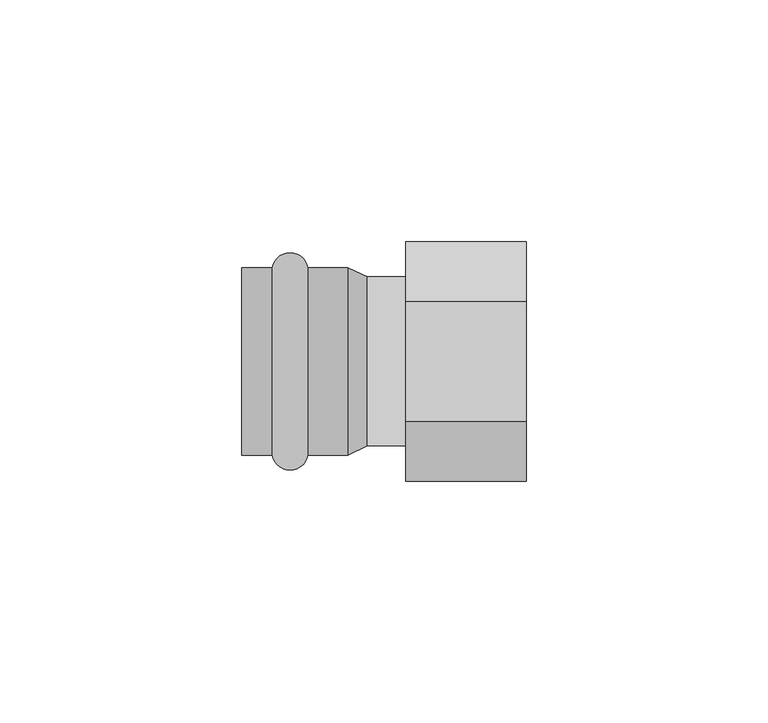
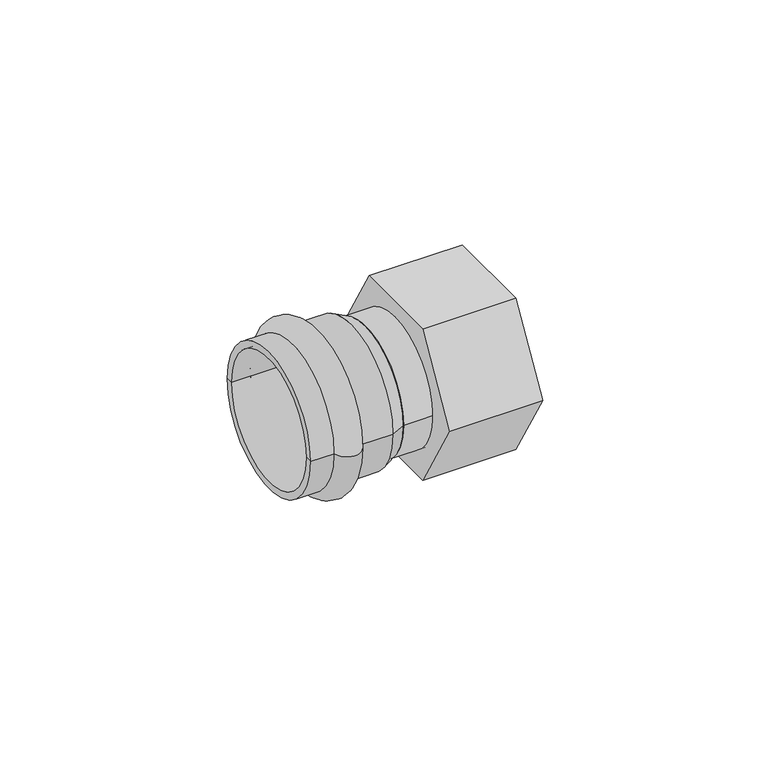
"""IFC4 building model written with IfcOpenShell, lengths in millimetres: pipe fitting geometry, VALTEC_VTi.908.I_Соединитель с накидной гайкой_Нержавеющая сталь : VTi.908.I."""

from ifc_helpers import new_model, si_unit, point, frame, origin, origin_2d, place, context, project, spatial, polyline, circle_curve, ellipse_curve, trimmed, segment, composite_curve, outline, extrude, source, transform, mapped, element, save
from ifc_brep_helpers import plane_surface, cylinder_surface, revolved_surface, advanced_brep


def pipe_fitting_dc9d7d62(model_context):
    return source(origin(), model_context, "Body", "SolidModel", [
        advanced_brep(
        [(-40.1432371, -19.4, 0.0), (-40.1432371, 19.4, 0.0), (-32.7567629, 19.4, 0.0), (-32.7567629, -19.4, 0.0), (-46.5, -19.4, 0.0), (-46.5, 19.4, 0.0), (-46.5, -17.5, 0.0), (-46.5, 17.5, 0.0), (-24.5, -17.5, 0.0), (-24.5, 17.5, 0.0), (-24.5, -19.4, 0.0), (-24.5, 19.4, 0.0)],
        [
            (0, 1, circle_curve(frame((-40.1432371, 0.0, 0.0), z_axis=(1.0, 0.0, 0.0), x_axis=(0.0, 1.0, 0.0)), 19.4)),
            (1, 2, circle_curve(frame((-36.45, 18.75, 0.0), z_axis=(0.0, 0.0, -1.0), x_axis=(1.0, 0.0, 0.0)), 3.75)),
            (2, 3, circle_curve(frame((-32.7567629, 0.0, 0.0), z_axis=(-1.0, 0.0, 0.0), x_axis=(0.0, 1.0, 0.0)), 19.4)),
            (3, 0, circle_curve(frame((-36.45, -18.75, 0.0), z_axis=(0.0, 0.0, -1.0), x_axis=(1.0, 0.0, 0.0)), 3.75)),
            (1, 0, circle_curve(frame((-40.1432371, 0.0, 0.0), z_axis=(1.0, 0.0, 0.0), x_axis=(0.0, 1.0, 0.0)), 19.4)),
            (3, 2, circle_curve(frame((-32.7567629, 0.0, 0.0), z_axis=(-1.0, 0.0, 0.0), x_axis=(0.0, 1.0, 0.0)), 19.4)),
            (4, 5, circle_curve(frame((-46.5, 0.0, 0.0), z_axis=(1.0, 0.0, 0.0), x_axis=(0.0, 1.0, 0.0)), 19.4)),
            (5, 1),
            (0, 4),
            (5, 4, circle_curve(frame((-46.5, 0.0, 0.0), z_axis=(1.0, 0.0, 0.0), x_axis=(0.0, 1.0, 0.0)), 19.4)),
            (6, 7, circle_curve(frame((-46.5, 0.0, 0.0), z_axis=(1.0, 0.0, 0.0), x_axis=(0.0, 1.0, 0.0)), 17.5)),
            (7, 5),
            (4, 6),
            (7, 6, circle_curve(frame((-46.5, 0.0, 0.0), z_axis=(1.0, 0.0, 0.0), x_axis=(0.0, 1.0, 0.0)), 17.5)),
            (8, 9, circle_curve(frame((-24.5, 0.0, 0.0), z_axis=(1.0, 0.0, 0.0), x_axis=(0.0, 1.0, 0.0)), 17.5)),
            (9, 7),
            (6, 8),
            (9, 8, circle_curve(frame((-24.5, 0.0, 0.0), z_axis=(1.0, 0.0, 0.0), x_axis=(0.0, 1.0, 0.0)), 17.5)),
            (10, 11, circle_curve(frame((-24.5, 0.0, 0.0), z_axis=(1.0, 0.0, 0.0), x_axis=(0.0, 1.0, 0.0)), 19.4)),
            (11, 9),
            (8, 10),
            (11, 10, circle_curve(frame((-24.5, 0.0, 0.0), z_axis=(1.0, 0.0, 0.0), x_axis=(0.0, 1.0, 0.0)), 19.4)),
            (2, 11),
            (10, 3),
        ],
        [
            revolved_surface(trimmed(ellipse_curve(frame((-36.45, 18.75, 0.0), z_axis=(0.0, 0.0, 1.0), x_axis=(1.0, 0.0, 0.0)), 3.75, 3.75), [point((-32.7567629, 19.4, 0.0))], [point((-40.1432371, 19.4, 0.0))], True, "CARTESIAN"), (-50.0364426, 0.0, 0.0), (-1.0, 0.0, 0.0)),
            cylinder_surface(frame((-50.0364426, 0.0, 0.0), z_axis=(-1.0, 0.0, 0.0), x_axis=(0.0, 1.0, 0.0)), 19.4),
            plane_surface(frame((-46.5, 0.0, 0.0), z_axis=(-1.0, 0.0, 0.0), x_axis=(0.0, 1.0, 0.0))),
            revolved_surface(polyline([(-46.5, 17.5, 0.0), (-24.5, 17.5, 0.0)]), (-50.0364426, 0.0, 0.0), (-1.0, 0.0, 0.0)),
            plane_surface(frame((-24.5, 0.0, 0.0), z_axis=(1.0, 0.0, 0.0), x_axis=(0.0, 1.0, 0.0))),
        ],
        [
            (0, [[1, 2, 3, 4]]),
            (0, [[5, -4, 6, -2]]),
            (1, [[7, 8, -1, 9]]),
            (1, [[10, -9, -5, -8]]),
            (2, [[11, 12, -7, 13]]),
            (2, [[14, -13, -10, -12]]),
            (3, [[15, 16, -11, 17]]),
            (3, [[18, -17, -14, -16]]),
            (4, [[19, 20, -15, 21]]),
            (4, [[22, -21, -18, -20]]),
            (1, [[-3, 23, -19, 24]]),
            (1, [[-6, -24, -22, -23]]),
        ],
    ),
        extrude(outline(polyline([(-24.8260616, 0.0), (-12.4130308, 21.5), (12.4130308, 21.5), (24.8260616, 0.0), (12.4130308, -21.5), (-12.4130308, -21.5), (-24.8260616, 0.0)])), frame((-12.5, 0.0, 0.0), z_axis=(1.0, 0.0, 0.0), x_axis=(0.0, 1.0, 0.0)), (0.0, 0.0, 1.0), 25.0),
        extrude(outline(composite_curve([segment(trimmed(circle_curve(origin_2d(), 17.5), [point((-17.5, 0.0))], [point((17.5, 0.0))], False, "CARTESIAN"), True, "CONTINUOUS"), segment(trimmed(circle_curve(origin_2d(), 17.5), [point((17.5, 0.0))], [point((-17.5, 0.0))], False, "CARTESIAN"), True, "CONTINUOUS")], self_intersect=False)), frame((-20.5, 0.0, 0.0), z_axis=(1.0, 0.0, 0.0), x_axis=(0.0, 1.0, 0.0)), (0.0, 0.0, 1.0), 12.0),
        advanced_brep(
        [(-20.5, -17.5, 0.0), (-20.5, 17.5, 0.0), (-24.5, -19.4, 0.0), (-24.5, 19.4, 0.0)],
        [
            (0, 1, circle_curve(frame((-20.5, 0.0, 0.0), z_axis=(1.0, 0.0, 0.0), x_axis=(0.0, -1.0, 0.0)), 17.5)),
            (1, 0, circle_curve(frame((-20.5, 0.0, 0.0), z_axis=(1.0, 0.0, 0.0), x_axis=(0.0, 1.0, 0.0)), 17.5)),
            (2, 3, circle_curve(frame((-24.5, 0.0, 0.0), z_axis=(-1.0, 0.0, 0.0), x_axis=(0.0, 1.0, 0.0)), 19.4)),
            (3, 2, circle_curve(frame((-24.5, 0.0, 0.0), z_axis=(-1.0, 0.0, 0.0), x_axis=(0.0, -1.0, 0.0)), 19.4)),
            (3, 1),
            (0, 2),
        ],
        [
            plane_surface(frame((-20.5, 0.0, 0.0), z_axis=(1.0, 0.0, 0.0), x_axis=(0.0, 0.0, -1.0))),
            plane_surface(frame((-24.5, 0.0, 0.0), z_axis=(-1.0, 0.0, 0.0), x_axis=(0.0, 0.0, -1.0))),
            revolved_surface(polyline([(-20.5, -17.500000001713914, 0.0), (-24.5, -19.4, 0.0)]), (16.3421053, 0.0, 0.0), (-1.0, 0.0, 0.0)),
            revolved_surface(polyline([(-20.5, 17.500000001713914, 0.0), (-24.5, 19.4, 0.0)]), (16.3421053, 0.0, 0.0), (-1.0, 0.0, 0.0)),
        ],
        [
            (0, [[1, 2]]),
            (1, [[3, 4]]),
            (2, [[-4, 5, -1, 6]]),
            (3, [[-3, -6, -2, -5]]),
        ],
    ),
    ])


if __name__ == "__main__":
    model = new_model("IFC4")
    model_context = context("Model", 3, world=origin())
    ifc_project = project(units=[si_unit("LENGTHUNIT", "METRE", prefix="MILLI")], contexts=[model_context])
    site = spatial("IfcSite", under=ifc_project)
    building = spatial("IfcBuilding", under=site)
    placement = place(None, origin())
    pipe_fitting_shape = pipe_fitting_dc9d7d62(model_context)
    element("IfcPipeFitting", 1, ObjectType="VALTEC_VTi.908.I_Соединитель с накидной гайкой_Нержавеющая сталь : VTi.908.I", at=placement, inside=building, context=model_context, shape_type="MappedRepresentation", body=[
        mapped(pipe_fitting_shape, transform((0.0, 0.0, 0.0), x_axis=(1.0, 0.0, 0.0), y_axis=(0.0, 1.0, 0.0), z_axis=(0.0, 0.0, 1.0))),
    ])
    save(model, "model.ifc")
